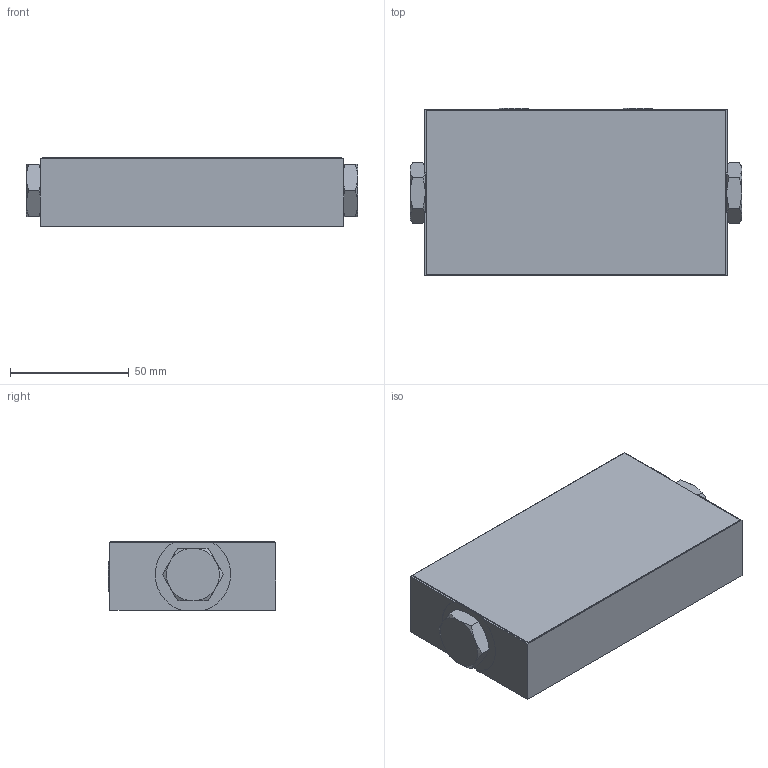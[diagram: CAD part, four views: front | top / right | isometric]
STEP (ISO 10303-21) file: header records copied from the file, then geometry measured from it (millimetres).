
FILE_DESCRIPTION((''),'2;1');
FILE_NAME('562515-EN-H_PRT','2019-12-31T21:40:59',('qusrh3'),(''),'CREO PARAMETRIC BY PTC INC, 2019030','CREO PARAMETRIC BY PTC INC, 2019030','');
FILE_SCHEMA(('CONFIG_CONTROL_DESIGN'));
Length unit declared in the file: inch
Products named in the file (1): 562515-EN-H_PRT
Bounding box: 139.41 x 70.65 x 28.96 mm (x, y, z)
Surface area: 40827 mm2 (no closed solid volume)
Topology: 0 solids, 6 shells, 67 faces, 184 edges, 122 vertices
Faces by surface type: plane 31, cone 26, bspline 6, cylinder 4
Entity records: 5223 total; most frequent: CARTESIAN_POINT 3679, ORIENTED_EDGE 314, DIRECTION 258, EDGE_CURVE 184, VERTEX_POINT 122, AXIS2_PLACEMENT_3D 97, B_SPLINE_CURVE_WITH_KNOTS 84, EDGE_LOOP 67
